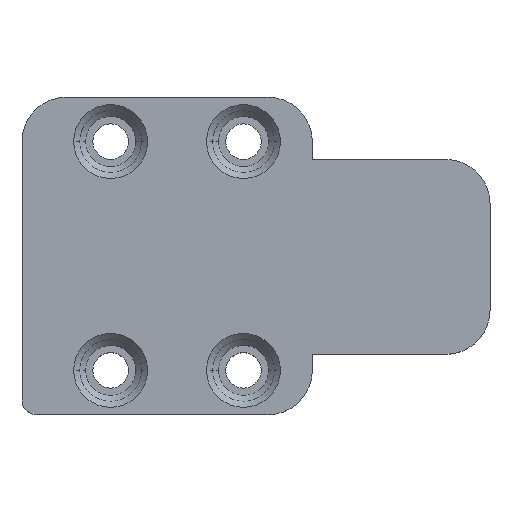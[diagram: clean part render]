
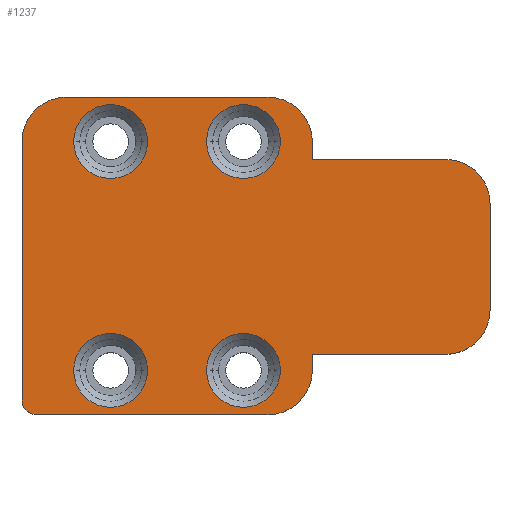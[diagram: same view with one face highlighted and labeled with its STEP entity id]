
A CAD part, top view. The second image highlights one B-rep face of the part: STEP entity #1237.
In plain terms, the highlighted planar face has unit normal (0, 0, 1).
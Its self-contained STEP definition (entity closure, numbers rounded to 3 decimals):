
#211=CARTESIAN_POINT('',(79.697,17.085,3.));
#212=DIRECTION('',(0.,0.,1.));
#213=DIRECTION('',(1.,0.,0.));
#214=AXIS2_PLACEMENT_3D('',#211,#212,#213);
#216=DIRECTION('',(0.,-1.,0.));
#217=VECTOR('',#216,7.2);
#218=CARTESIAN_POINT('',(82.697,17.085,3.));
#219=LINE('',#218,#217);
#220=CARTESIAN_POINT('',(79.697,9.885,3.));
#221=DIRECTION('',(0.,0.,1.));
#222=DIRECTION('',(0.,-1.,0.));
#223=AXIS2_PLACEMENT_3D('',#220,#221,#222);
#225=CARTESIAN_POINT('',(67.661,5.8,3.));
#226=DIRECTION('',(0.,0.,1.));
#227=DIRECTION('',(0.,-1.,0.));
#228=AXIS2_PLACEMENT_3D('',#225,#226,#227);
#230=DIRECTION('',(-1.,0.,0.));
#231=VECTOR('',#230,15.661);
#232=CARTESIAN_POINT('',(67.661,2.8,3.));
#233=LINE('',#232,#231);
#234=CARTESIAN_POINT('',(52.,3.8,3.));
#235=DIRECTION('',(0.,0.,-1.));
#236=DIRECTION('',(0.,-1.,0.));
#237=AXIS2_PLACEMENT_3D('',#234,#235,#236);
#239=DIRECTION('',(0.,-1.,0.));
#240=VECTOR('',#239,17.5);
#241=CARTESIAN_POINT('',(51.,21.3,3.));
#242=LINE('',#241,#240);
#243=CARTESIAN_POINT('',(54.,21.3,3.));
#244=DIRECTION('',(0.,0.,-1.));
#245=DIRECTION('',(-1.,0.,0.));
#246=AXIS2_PLACEMENT_3D('',#243,#244,#245);
#248=CARTESIAN_POINT('',(67.661,21.3,3.));
#249=DIRECTION('',(0.,0.,1.));
#250=DIRECTION('',(1.,0.,0.));
#251=AXIS2_PLACEMENT_3D('',#248,#249,#250);
#253=CARTESIAN_POINT('',(66.,21.3,3.));
#254=DIRECTION('',(0.,0.,-1.));
#255=DIRECTION('',(-1.,0.,0.));
#256=AXIS2_PLACEMENT_3D('',#253,#254,#255);
#258=CARTESIAN_POINT('',(66.,21.3,3.));
#259=DIRECTION('',(0.,0.,-1.));
#260=DIRECTION('',(1.,0.,0.));
#261=AXIS2_PLACEMENT_3D('',#258,#259,#260);
#263=CARTESIAN_POINT('',(57.,21.3,3.));
#264=DIRECTION('',(0.,0.,-1.));
#265=DIRECTION('',(-1.,0.,0.));
#266=AXIS2_PLACEMENT_3D('',#263,#264,#265);
#268=CARTESIAN_POINT('',(57.,21.3,3.));
#269=DIRECTION('',(0.,0.,-1.));
#270=DIRECTION('',(1.,0.,0.));
#271=AXIS2_PLACEMENT_3D('',#268,#269,#270);
#273=CARTESIAN_POINT('',(57.,5.8,3.));
#274=DIRECTION('',(0.,0.,-1.));
#275=DIRECTION('',(-1.,0.,0.));
#276=AXIS2_PLACEMENT_3D('',#273,#274,#275);
#278=CARTESIAN_POINT('',(57.,5.8,3.));
#279=DIRECTION('',(0.,0.,-1.));
#280=DIRECTION('',(1.,0.,0.));
#281=AXIS2_PLACEMENT_3D('',#278,#279,#280);
#283=CARTESIAN_POINT('',(66.,5.8,3.));
#284=DIRECTION('',(0.,0.,-1.));
#285=DIRECTION('',(-1.,0.,0.));
#286=AXIS2_PLACEMENT_3D('',#283,#284,#285);
#288=CARTESIAN_POINT('',(66.,5.8,3.));
#289=DIRECTION('',(0.,0.,-1.));
#290=DIRECTION('',(1.,0.,0.));
#291=AXIS2_PLACEMENT_3D('',#288,#289,#290);
#415=DIRECTION('',(-1.,0.,0.));
#416=VECTOR('',#415,9.036);
#417=CARTESIAN_POINT('',(79.697,20.085,3.));
#418=LINE('',#417,#416);
#439=DIRECTION('',(0.,1.,0.));
#440=VECTOR('',#439,1.215);
#441=CARTESIAN_POINT('',(70.661,20.085,3.));
#442=LINE('',#441,#440);
#447=DIRECTION('',(0.,1.,0.));
#448=VECTOR('',#447,1.085);
#449=CARTESIAN_POINT('',(70.661,5.8,3.));
#450=LINE('',#449,#448);
#467=DIRECTION('',(-1.,0.,0.));
#468=VECTOR('',#467,13.661);
#469=CARTESIAN_POINT('',(67.661,24.3,3.));
#470=LINE('',#469,#468);
#527=DIRECTION('',(1.,0.,0.));
#528=VECTOR('',#527,9.036);
#529=CARTESIAN_POINT('',(70.661,6.885,3.));
#530=LINE('',#529,#528);
#733=CARTESIAN_POINT('',(51.,21.3,3.));
#734=CARTESIAN_POINT('',(54.,24.3,3.));
#735=VERTEX_POINT('',#733);
#736=VERTEX_POINT('',#734);
#737=CARTESIAN_POINT('',(52.,2.8,3.));
#738=CARTESIAN_POINT('',(51.,3.8,3.));
#739=VERTEX_POINT('',#737);
#740=VERTEX_POINT('',#738);
#757=CARTESIAN_POINT('',(70.661,6.885,3.));
#758=VERTEX_POINT('',#757);
#759=CARTESIAN_POINT('',(70.661,20.085,3.));
#760=VERTEX_POINT('',#759);
#797=CARTESIAN_POINT('',(70.661,21.3,3.));
#798=VERTEX_POINT('',#797);
#799=CARTESIAN_POINT('',(67.661,24.3,3.));
#800=VERTEX_POINT('',#799);
#801=CARTESIAN_POINT('',(67.661,2.8,3.));
#802=CARTESIAN_POINT('',(70.661,5.8,3.));
#803=VERTEX_POINT('',#801);
#804=VERTEX_POINT('',#802);
#813=CARTESIAN_POINT('',(82.697,17.085,3.));
#814=VERTEX_POINT('',#813);
#815=CARTESIAN_POINT('',(79.697,20.085,3.));
#816=VERTEX_POINT('',#815);
#821=CARTESIAN_POINT('',(79.697,6.885,3.));
#822=VERTEX_POINT('',#821);
#823=CARTESIAN_POINT('',(82.697,9.885,3.));
#824=VERTEX_POINT('',#823);
#857=CARTESIAN_POINT('',(63.5,21.3,3.));
#858=CARTESIAN_POINT('',(68.5,21.3,3.));
#859=VERTEX_POINT('',#857);
#860=VERTEX_POINT('',#858);
#865=CARTESIAN_POINT('',(54.5,21.3,3.));
#866=CARTESIAN_POINT('',(59.5,21.3,3.));
#867=VERTEX_POINT('',#865);
#868=VERTEX_POINT('',#866);
#873=CARTESIAN_POINT('',(54.5,5.8,3.));
#874=CARTESIAN_POINT('',(59.5,5.8,3.));
#875=VERTEX_POINT('',#873);
#876=VERTEX_POINT('',#874);
#881=CARTESIAN_POINT('',(63.5,5.8,3.));
#882=CARTESIAN_POINT('',(68.5,5.8,3.));
#883=VERTEX_POINT('',#881);
#884=VERTEX_POINT('',#882);
#1179=CARTESIAN_POINT('',(62.,0.,3.));
#1180=DIRECTION('',(0.,0.,1.));
#1181=DIRECTION('',(0.,1.,0.));
#1182=AXIS2_PLACEMENT_3D('',#1179,#1180,#1181);
#1183=PLANE('',#1182);
#1185=ORIENTED_EDGE('',*,*,#1184,.F.);
#1187=ORIENTED_EDGE('',*,*,#1186,.T.);
#1189=ORIENTED_EDGE('',*,*,#1188,.F.);
#1191=ORIENTED_EDGE('',*,*,#1190,.F.);
#1193=ORIENTED_EDGE('',*,*,#1192,.F.);
#1195=ORIENTED_EDGE('',*,*,#1194,.F.);
#1197=ORIENTED_EDGE('',*,*,#1196,.T.);
#1199=ORIENTED_EDGE('',*,*,#1198,.T.);
#1201=ORIENTED_EDGE('',*,*,#1200,.F.);
#1203=ORIENTED_EDGE('',*,*,#1202,.T.);
#1205=ORIENTED_EDGE('',*,*,#1204,.F.);
#1207=ORIENTED_EDGE('',*,*,#1206,.F.);
#1209=ORIENTED_EDGE('',*,*,#1208,.F.);
#1211=ORIENTED_EDGE('',*,*,#1210,.F.);
#1212=EDGE_LOOP('',(#1185,#1187,#1189,#1191,#1193,#1195,#1197,#1199,#1201,#1203,
#1205,#1207,#1209,#1211));
#1213=FACE_OUTER_BOUND('',#1212,.F.);
#1215=ORIENTED_EDGE('',*,*,#1214,.F.);
#1216=ORIENTED_EDGE('',*,*,#1169,.F.);
#1217=EDGE_LOOP('',(#1215,#1216));
#1218=FACE_BOUND('',#1217,.F.);
#1220=ORIENTED_EDGE('',*,*,#1219,.F.);
#1222=ORIENTED_EDGE('',*,*,#1221,.F.);
#1223=EDGE_LOOP('',(#1220,#1222));
#1224=FACE_BOUND('',#1223,.F.);
#1226=ORIENTED_EDGE('',*,*,#1225,.F.);
#1228=ORIENTED_EDGE('',*,*,#1227,.F.);
#1229=EDGE_LOOP('',(#1226,#1228));
#1230=FACE_BOUND('',#1229,.F.);
#1232=ORIENTED_EDGE('',*,*,#1231,.F.);
#1234=ORIENTED_EDGE('',*,*,#1233,.F.);
#1235=EDGE_LOOP('',(#1232,#1234));
#1236=FACE_BOUND('',#1235,.F.);
#1237=ADVANCED_FACE('',(#1213,#1218,#1224,#1230,#1236),#1183,.T.);
#215=CIRCLE('',#214,3.);
#224=CIRCLE('',#223,3.);
#229=CIRCLE('',#228,3.);
#238=CIRCLE('',#237,1.);
#247=CIRCLE('',#246,3.);
#252=CIRCLE('',#251,3.);
#257=CIRCLE('',#256,2.5);
#262=CIRCLE('',#261,2.5);
#267=CIRCLE('',#266,2.5);
#272=CIRCLE('',#271,2.5);
#277=CIRCLE('',#276,2.5);
#282=CIRCLE('',#281,2.5);
#287=CIRCLE('',#286,2.5);
#292=CIRCLE('',#291,2.5);
#1169=EDGE_CURVE('',#860,#859,#262,.T.);
#1184=EDGE_CURVE('',#814,#816,#215,.T.);
#1186=EDGE_CURVE('',#814,#824,#219,.T.);
#1188=EDGE_CURVE('',#822,#824,#224,.T.);
#1190=EDGE_CURVE('',#758,#822,#530,.T.);
#1192=EDGE_CURVE('',#804,#758,#450,.T.);
#1194=EDGE_CURVE('',#803,#804,#229,.T.);
#1196=EDGE_CURVE('',#803,#739,#233,.T.);
#1198=EDGE_CURVE('',#739,#740,#238,.T.);
#1200=EDGE_CURVE('',#735,#740,#242,.T.);
#1202=EDGE_CURVE('',#735,#736,#247,.T.);
#1204=EDGE_CURVE('',#800,#736,#470,.T.);
#1206=EDGE_CURVE('',#798,#800,#252,.T.);
#1208=EDGE_CURVE('',#760,#798,#442,.T.);
#1210=EDGE_CURVE('',#816,#760,#418,.T.);
#1214=EDGE_CURVE('',#859,#860,#257,.T.);
#1219=EDGE_CURVE('',#867,#868,#267,.T.);
#1221=EDGE_CURVE('',#868,#867,#272,.T.);
#1225=EDGE_CURVE('',#875,#876,#277,.T.);
#1227=EDGE_CURVE('',#876,#875,#282,.T.);
#1231=EDGE_CURVE('',#883,#884,#287,.T.);
#1233=EDGE_CURVE('',#884,#883,#292,.T.);
